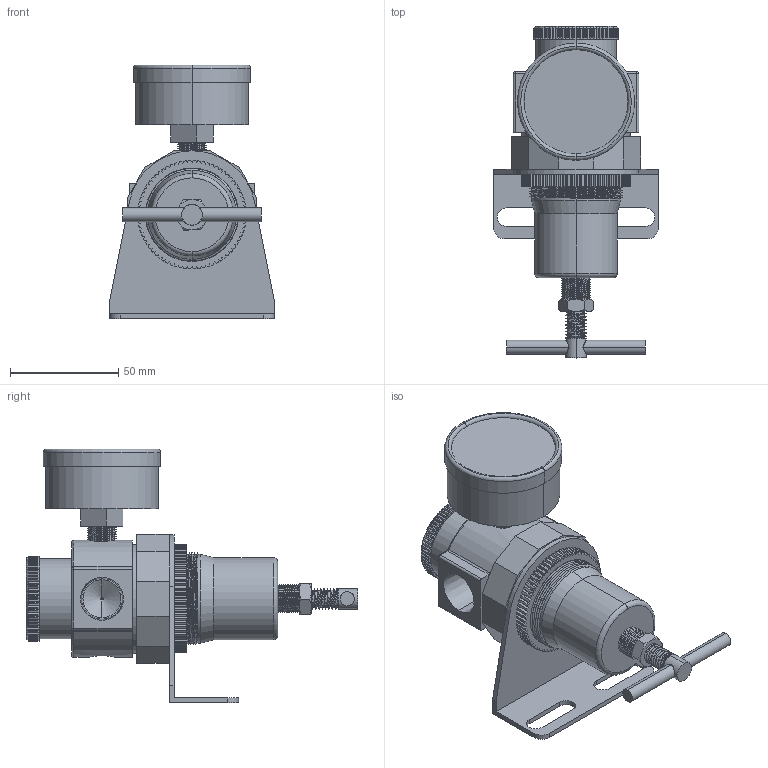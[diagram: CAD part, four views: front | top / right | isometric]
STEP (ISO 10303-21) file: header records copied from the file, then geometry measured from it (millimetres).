
FILE_DESCRIPTION (( 'STEP AP203' ), '1' );
FILE_NAME ('R011-04GB#.STEP', '2016-02-16T06:06:51', ( 'Toshiba' ), ( 'Toshiba' ), 'SwSTEP 2.0', 'SolidWorks 2014', '' );
FILE_SCHEMA (( 'CONFIG_CONTROL_DESIGN' ));
Length unit declared in the file: millimetre
Products named in the file (13): R011-04GB#; R119-02-6; KWSAR10Y57-1; R010-2; 50-P-AD=1-4PT-1; KWR10X51; R011-1; R119-02-7; 50-P-AD=1-4PT.SLDPRT; R119-02-5; KWSAR10Y57; R010-1(04); 50-P-AD=1-4PT-2
Assembly tree (12 placements, depth 3):
  R011-04GB#
    R010-1(04)
    R010-2
    KWSAR10Y57
      KWSAR10Y57-1
      KWR10X51
    R011-1
    R119-02-5
    R119-02-6
    R119-02-7
    50-P-AD=1-4PT.SLDPRT
      50-P-AD=1-4PT-1
      50-P-AD=1-4PT-2
Bounding box: 76 x 153 x 117 mm (x, y, z)
Volume: 261283.2 mm3; surface area: 64496 mm2
Topology: 10 solids, 10 shells, 735 faces, 2073 edges, 1361 vertices
Faces by surface type: plane 364, cylinder 314, cone 32, torus 13, bspline 8, sphere 4
Entity records: 31374 total; most frequent: CARTESIAN_POINT 11617, ORIENTED_EDGE 4130, DIRECTION 3605, EDGE_CURVE 2065, VERTEX_POINT 1361, AXIS2_PLACEMENT_3D 1209, VECTOR 1187, LINE 1187
